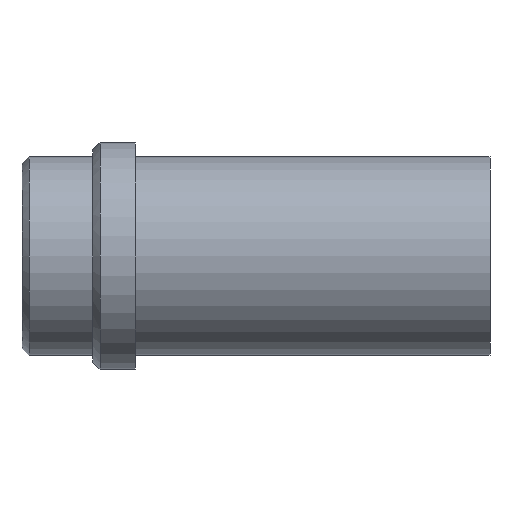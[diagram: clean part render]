
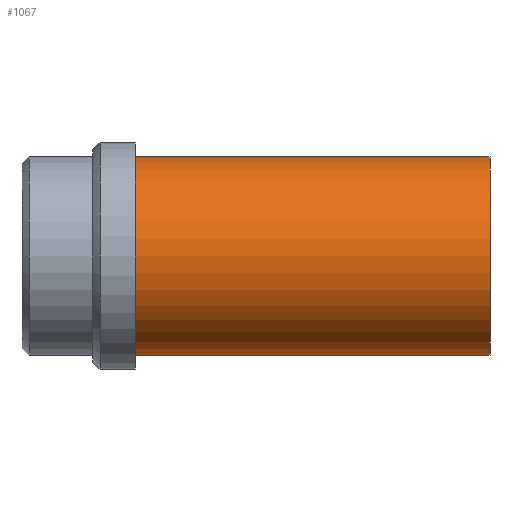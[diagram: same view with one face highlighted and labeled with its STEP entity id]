
A CAD part, front view. The second image highlights one B-rep face of the part: STEP entity #1067.
In plain terms, the highlighted cylindrical face has radius 14 mm (diameter 28 mm), a partial arc.
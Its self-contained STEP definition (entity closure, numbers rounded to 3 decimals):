
#953=CARTESIAN_POINT('Vertex',(0.,0.,-14.)) ;
#958=CARTESIAN_POINT('Axis2P3D Location',(0.,0.,0.)) ;
#962=CARTESIAN_POINT('Vertex',(0.,-14.,0.)) ;
#965=CARTESIAN_POINT('Axis2P3D Location',(0.,0.,0.)) ;
#969=CARTESIAN_POINT('Vertex',(0.,0.,14.)) ;
#995=CARTESIAN_POINT('Vertex',(50.,0.,14.)) ;
#998=CARTESIAN_POINT('Axis2P3D Location',(50.,0.,0.)) ;
#1002=CARTESIAN_POINT('Vertex',(50.,-14.,0.)) ;
#1005=CARTESIAN_POINT('Axis2P3D Location',(50.,0.,0.)) ;
#1009=CARTESIAN_POINT('Vertex',(50.,0.,-14.)) ;
#1035=CARTESIAN_POINT('Line Origine',(50.,0.,14.)) ;
#1040=CARTESIAN_POINT('Line Origine',(50.,0.,-14.)) ;
#1054=CARTESIAN_POINT('Axis2P3D Location',(50.,0.,0.)) ;
#959=DIRECTION('Axis2P3D Direction',(1.,0.,-0.)) ;
#966=DIRECTION('Axis2P3D Direction',(1.,0.,-0.)) ;
#999=DIRECTION('Axis2P3D Direction',(1.,0.,-0.)) ;
#1006=DIRECTION('Axis2P3D Direction',(1.,0.,-0.)) ;
#1036=DIRECTION('Vector Direction',(-1.,0.,0.)) ;
#1041=DIRECTION('Vector Direction',(-1.,0.,0.)) ;
#1055=DIRECTION('Axis2P3D Direction',(-1.,-0.,-0.)) ;
#1056=DIRECTION('Axis2P3D XDirection',(0.,0.,-1.)) ;
#960=AXIS2_PLACEMENT_3D('Circle Axis2P3D',#958,#959,$) ;
#967=AXIS2_PLACEMENT_3D('Circle Axis2P3D',#965,#966,$) ;
#1000=AXIS2_PLACEMENT_3D('Circle Axis2P3D',#998,#999,$) ;
#1007=AXIS2_PLACEMENT_3D('Circle Axis2P3D',#1005,#1006,$) ;
#1057=AXIS2_PLACEMENT_3D('Cylinder Axis2P3D',#1054,#1055,#1056) ;
#1060=ORIENTED_EDGE('',*,*,#1044,.T.) ;
#1061=ORIENTED_EDGE('',*,*,#1011,.F.) ;
#1062=ORIENTED_EDGE('',*,*,#1004,.F.) ;
#1063=ORIENTED_EDGE('',*,*,#1039,.T.) ;
#1064=ORIENTED_EDGE('',*,*,#971,.T.) ;
#1065=ORIENTED_EDGE('',*,*,#964,.T.) ;
#1037=VECTOR('Line Direction',#1036,1.) ;
#1042=VECTOR('Line Direction',#1041,1.) ;
#1067=ADVANCED_FACE('358-20X66',(#1066),#1058,.T.) ;
#961=CIRCLE('generated circle',#960,14.) ;
#968=CIRCLE('generated circle',#967,14.) ;
#1001=CIRCLE('generated circle',#1000,14.) ;
#1008=CIRCLE('generated circle',#1007,14.) ;
#1058=CYLINDRICAL_SURFACE('generated cylinder',#1057,14.) ;
#964=EDGE_CURVE('',#963,#954,#961,.T.) ;
#971=EDGE_CURVE('',#970,#963,#968,.T.) ;
#1004=EDGE_CURVE('',#996,#1003,#1001,.T.) ;
#1011=EDGE_CURVE('',#1003,#1010,#1008,.T.) ;
#1039=EDGE_CURVE('',#996,#970,#1038,.T.) ;
#1044=EDGE_CURVE('',#954,#1010,#1043,.F.) ;
#1059=EDGE_LOOP('',(#1060,#1061,#1062,#1063,#1064,#1065)) ;
#1066=FACE_OUTER_BOUND('',#1059,.T.) ;
#1038=LINE('Line',#1035,#1037) ;
#1043=LINE('Line',#1040,#1042) ;
#954=VERTEX_POINT('',#953) ;
#963=VERTEX_POINT('',#962) ;
#970=VERTEX_POINT('',#969) ;
#996=VERTEX_POINT('',#995) ;
#1003=VERTEX_POINT('',#1002) ;
#1010=VERTEX_POINT('',#1009) ;
